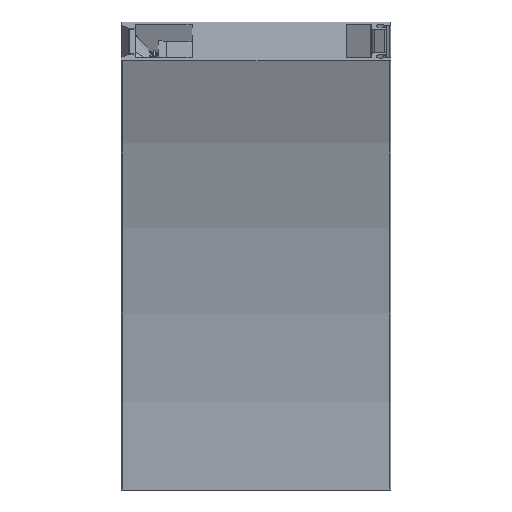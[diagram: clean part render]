
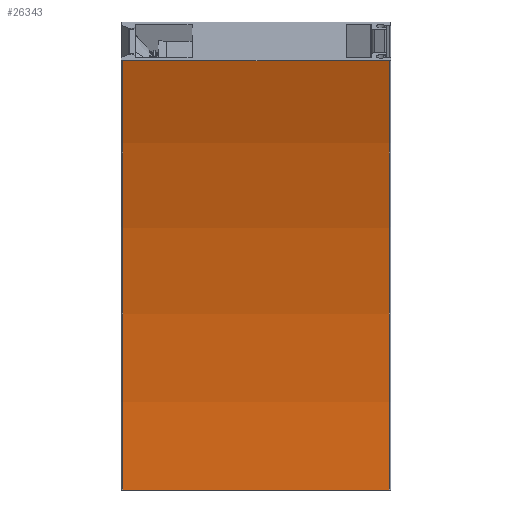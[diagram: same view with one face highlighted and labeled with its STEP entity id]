
A CAD part, left-side view. The second image highlights one B-rep face of the part: STEP entity #26343.
In plain terms, the highlighted cylindrical face has radius 372.2 mm (diameter 744.4 mm), a partial arc.
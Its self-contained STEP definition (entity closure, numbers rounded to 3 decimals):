
#4438=CYLINDRICAL_SURFACE('',#27984,372.2);
#4621=LINE('',#35589,#5703);
#4622=LINE('',#35591,#5704);
#5703=VECTOR('',#30208,10.);
#5704=VECTOR('',#30209,10.);
#7214=FACE_OUTER_BOUND('',#8735,.T.);
#8735=EDGE_LOOP('',(#18185,#18186,#18187,#18188));
#10400=CIRCLE('',#27983,372.2);
#10401=CIRCLE('',#27985,372.2);
#11434=VERTEX_POINT('',#35582);
#11435=VERTEX_POINT('',#35584);
#11436=VERTEX_POINT('',#35588);
#11437=VERTEX_POINT('',#35590);
#14087=EDGE_CURVE('',#11434,#11435,#10400,.T.);
#14088=EDGE_CURVE('',#11436,#11434,#4621,.T.);
#14089=EDGE_CURVE('',#11437,#11435,#4622,.T.);
#14090=EDGE_CURVE('',#11436,#11437,#10401,.T.);
#18185=ORIENTED_EDGE('',*,*,#14088,.T.);
#18186=ORIENTED_EDGE('',*,*,#14087,.T.);
#18187=ORIENTED_EDGE('',*,*,#14089,.F.);
#18188=ORIENTED_EDGE('',*,*,#14090,.F.);
#26343=ADVANCED_FACE('',(#7214),#4438,.F.);
#27983=AXIS2_PLACEMENT_3D('',#35586,#30204,#30205);
#27984=AXIS2_PLACEMENT_3D('',#35587,#30206,#30207);
#27985=AXIS2_PLACEMENT_3D('',#35592,#30210,#30211);
#30204=DIRECTION('center_axis',(0.,-1.,0.));
#30205=DIRECTION('ref_axis',(1.,0.,0.));
#30206=DIRECTION('center_axis',(0.,-1.,0.));
#30207=DIRECTION('ref_axis',(1.,0.,0.));
#30208=DIRECTION('',(0.,-1.,0.));
#30209=DIRECTION('',(0.,-1.,0.));
#30210=DIRECTION('center_axis',(0.,-1.,0.));
#30211=DIRECTION('ref_axis',(1.,0.,0.));
#35582=CARTESIAN_POINT('',(-18.595,-41.736,0.));
#35584=CARTESIAN_POINT('',(-50.773,-41.736,151.387));
#35586=CARTESIAN_POINT('Origin',(-390.795,-41.736,0.));
#35587=CARTESIAN_POINT('Origin',(-390.795,5.314,0.));
#35588=CARTESIAN_POINT('',(-18.595,52.364,0.));
#35589=CARTESIAN_POINT('',(-18.595,52.364,0.));
#35590=CARTESIAN_POINT('',(-50.773,52.364,151.387));
#35591=CARTESIAN_POINT('',(-50.773,52.364,151.387));
#35592=CARTESIAN_POINT('Origin',(-390.795,52.364,0.));
